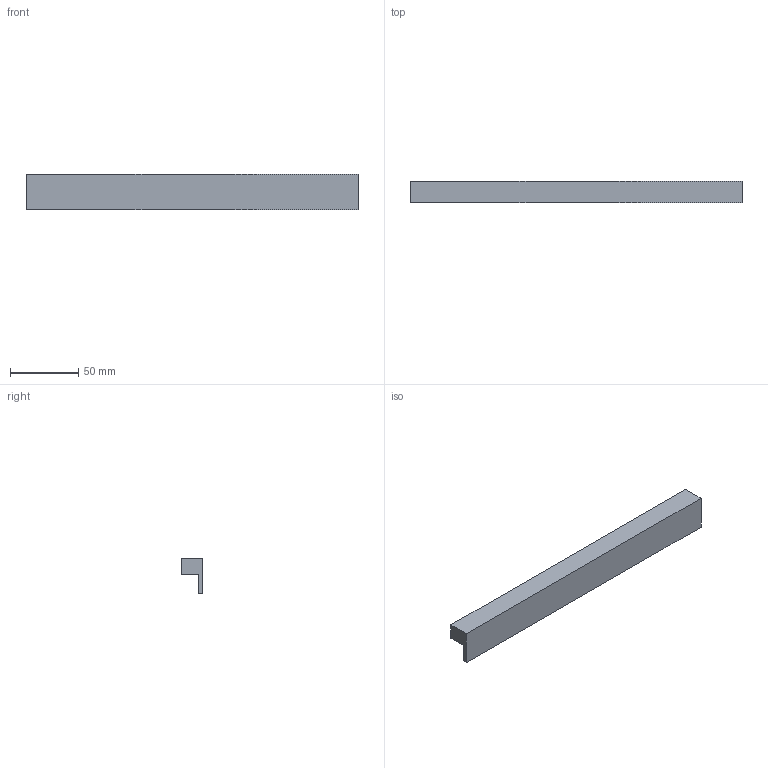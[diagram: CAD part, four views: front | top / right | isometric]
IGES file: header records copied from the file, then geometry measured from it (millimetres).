
Start section: Data from Parasolid IGES Translator 20.0.26, Copyright(c) 2006 Siemens P LM Software. All Rights Reserved.
Global section: file name: 9209006.igs; native system: By Siemens PLM Incorporated; preprocessor: XPlus GENERIC/IGES 20.0.26; author: Noname; organization: Noname; date: 20230220.170046; units: millimetre
Bounding box: 244 x 16 x 26 mm (x, y, z)
Surface area: 21215.3 mm2 (no closed solid volume)
Topology: 0 solids, 0 shells, 12 faces, 48 edges, 46 vertices
Faces by surface type: extrusion 10, revolution 2
